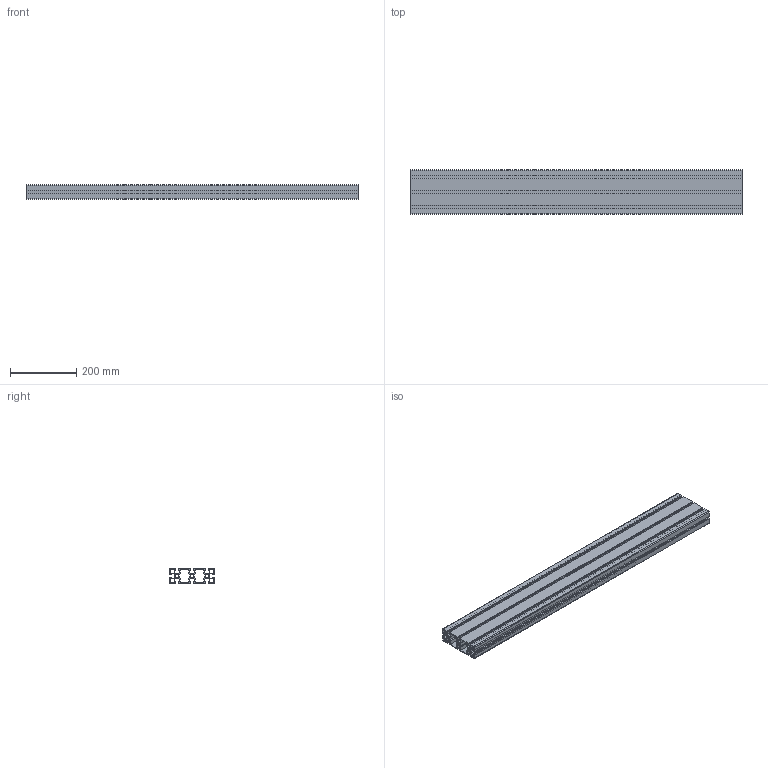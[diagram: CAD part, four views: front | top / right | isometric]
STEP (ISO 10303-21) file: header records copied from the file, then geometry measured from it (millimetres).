
FILE_DESCRIPTION (( 'STEP AP214' ), '1' );
FILE_NAME ('1.0115 45X135 L 6m musta 1000mm.STEP', '2026-03-17T09:02:04', ( '' ), ( '' ), 'SwSTEP 2.0', 'SolidWorks 2025', '' );
FILE_SCHEMA (( 'AUTOMOTIVE_DESIGN' ));
Length unit declared in the file: millimetre
Products named in the file (1): 1.0115 45X135 L 6m musta 1000mm
Bounding box: 1000 x 135 x 45 mm (x, y, z)
Volume: 1806393.5 mm3; surface area: 1221634.5 mm2
Topology: 1 solids, 1 shells, 321 faces, 957 edges, 638 vertices
Faces by surface type: plane 162, cylinder 159
Entity records: 14459 total; most frequent: DIRECTION 1919, CARTESIAN_POINT 1917, ORIENTED_EDGE 1914, EDGE_CURVE 957, AXIS2_PLACEMENT_3D 640, LINE 639, VECTOR 639, VERTEX_POINT 638
